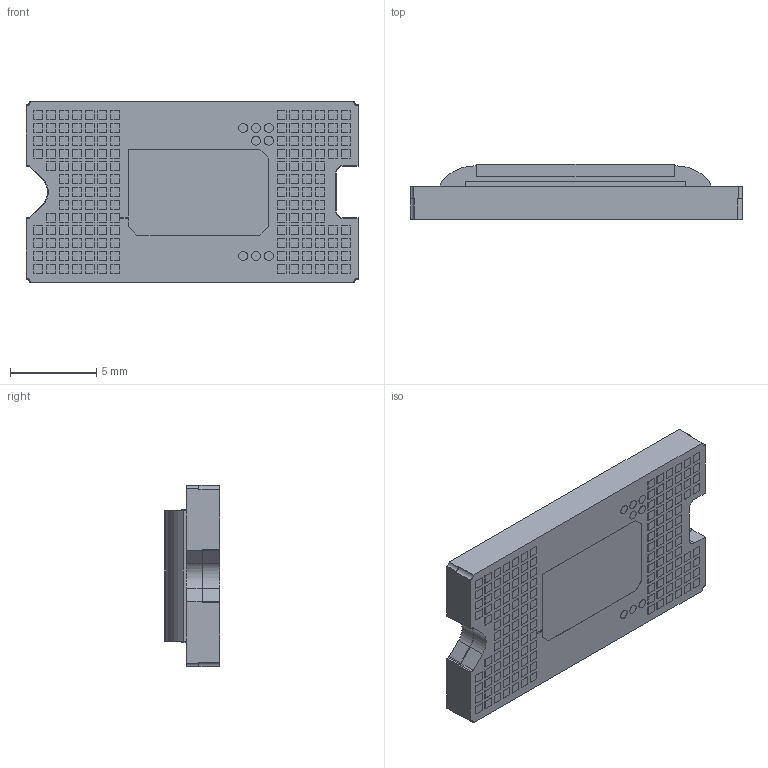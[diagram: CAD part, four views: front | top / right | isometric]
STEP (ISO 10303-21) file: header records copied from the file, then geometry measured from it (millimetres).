
FILE_DESCRIPTION (( 'STEP AP214' ), '1' );
FILE_NAME ('s322-DMD-Assy-wPads.STEP', '2023-05-10T15:51:06', ( '' ), ( '' ), 'SwSTEP 2.0', 'SolidWorks 2021', '' );
FILE_SCHEMA (( 'AUTOMOTIVE_DESIGN' ));
Length unit declared in the file: millimetre
Products named in the file (7): s322-Pad-Pattern; Test-Elec-Pad-s322; Window-s322; SymPad-s322; s322-DMD-Assy-wPads; Elec-Pad-s322-DMD; Ceramic-s322
Assembly tree (163 placements, depth 3):
  s322-DMD-Assy-wPads
    Ceramic-s322
    Window-s322
    s322-Pad-Pattern
      Elec-Pad-s322-DMD  x151
      Test-Elec-Pad-s322  x8
    SymPad-s322
Bounding box: 19.25 x 3.22 x 10.5 mm (x, y, z)
Volume: 491.7 mm3; surface area: 986.6 mm2
Topology: 162 solids, 162 shells, 1053 faces, 2165 edges, 1440 vertices
Faces by surface type: plane 1013, cylinder 40
Entity records: 5766 total; most frequent: DIRECTION 959, CARTESIAN_POINT 827, ORIENTED_EDGE 646, AXIS2_PLACEMENT_3D 344, EDGE_CURVE 323, VECTOR 271, LINE 271, VERTEX_POINT 212
